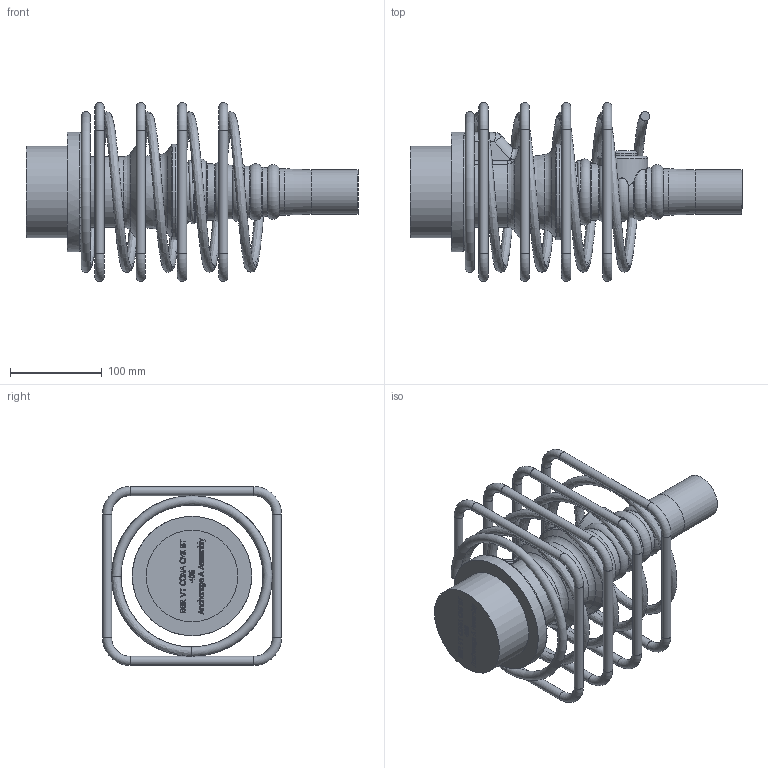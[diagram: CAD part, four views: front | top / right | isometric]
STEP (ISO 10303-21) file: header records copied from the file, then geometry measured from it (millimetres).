
FILE_DESCRIPTION(/* description */ (''),/* implementation_level */ '2;1');
FILE_NAME(/* name */ 'BBR VT CONA CMI BT 406_Anchorage A Assembly_CS-34,28.stp',/* time_stamp */ '2025-04-29T15:11:50+02:00',/* author */ ('tk'),/* organization */ (''),/* preprocessor_version */ 'ST-DEVELOPER v20',/* originating_system */ 'Autodesk Inventor 2024',/* authorisation */ '');
FILE_SCHEMA (('AUTOMOTIVE_DESIGN { 1 0 10303 214 3 1 1 }'));
Length unit declared in the file: millimetre
Products named in the file (1): BBR VT CONA CMI BT 406_Anchorage A Assembly_CS-34,28
Bounding box: 361.87 x 195 x 195 mm (x, y, z)
Volume: 2136500.1 mm3; surface area: 294511.8 mm2
Topology: 6 solids, 6 shells, 731 faces, 1963 edges, 1291 vertices
Faces by surface type: plane 323, bspline 313, torus 49, cylinder 36, cone 10
Full cylindrical faces by diameter (mm): 10 x16, 32 x1, 49 x1, 55 x1, 63.5 x2, 100 x1, 104 x2, 130 x1
Entity records: 29031 total; most frequent: CARTESIAN_POINT 11910, ORIENTED_EDGE 3918, DIRECTION 2393, EDGE_CURVE 1959, VERTEX_POINT 1291, LINE 1085, VECTOR 1085, EDGE_LOOP 790
